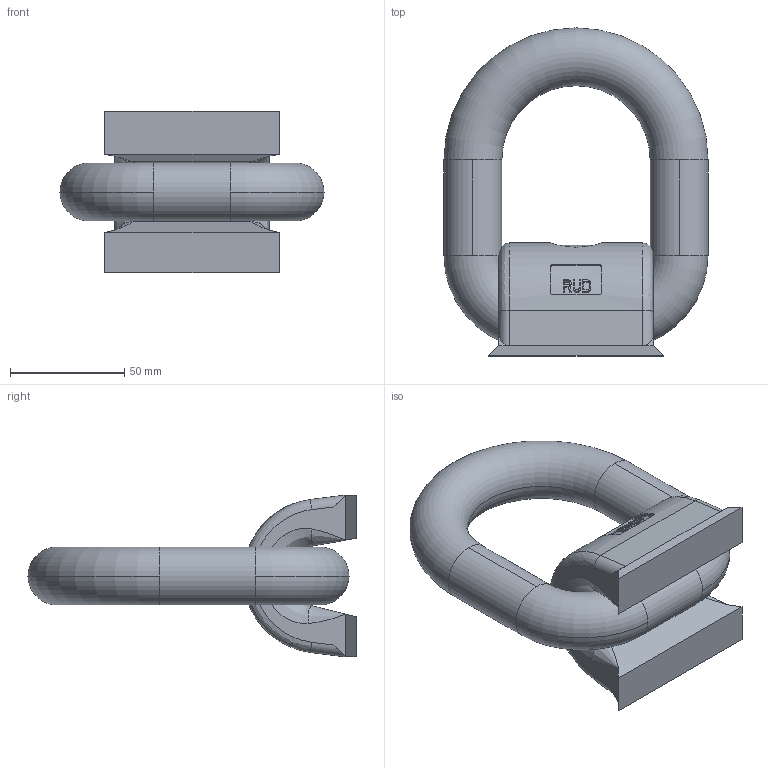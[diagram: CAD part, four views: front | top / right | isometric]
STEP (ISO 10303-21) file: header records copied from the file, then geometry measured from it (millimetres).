
FILE_DESCRIPTION (( 'STEP AP203' ), '1' );
FILE_NAME ('LBS - 8t.STEP', '2013-04-10T16:56:15', ( '' ), ( '' ), 'SwSTEP 2.0', 'SolidWorks 2012', '' );
FILE_SCHEMA (( 'CONFIG_CONTROL_DESIGN' ));
Length unit declared in the file: millimetre
Products named in the file (3): Base-8t; Al蓷-8t; LBS - 8t
Assembly tree (2 placements, depth 2):
  LBS - 8t
    Base-8t
    Al蓷-8t
Bounding box: 115.8 x 143.88 x 71 mm (x, y, z)
Volume: 316657.4 mm3; surface area: 48873.5 mm2
Topology: 2 solids, 2 shells, 140 faces, 380 edges, 244 vertices
Faces by surface type: plane 100, cylinder 26, bspline 8, torus 6
Entity records: 6431 total; most frequent: CARTESIAN_POINT 2974, ORIENTED_EDGE 752, DIRECTION 580, EDGE_CURVE 376, VERTEX_POINT 244, AXIS2_PLACEMENT_3D 205, LINE 170, VECTOR 170
